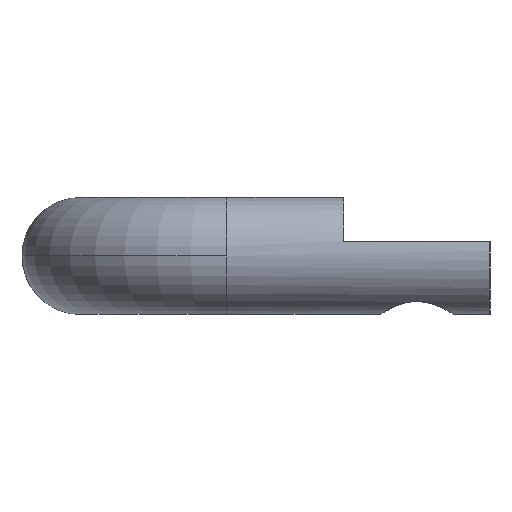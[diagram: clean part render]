
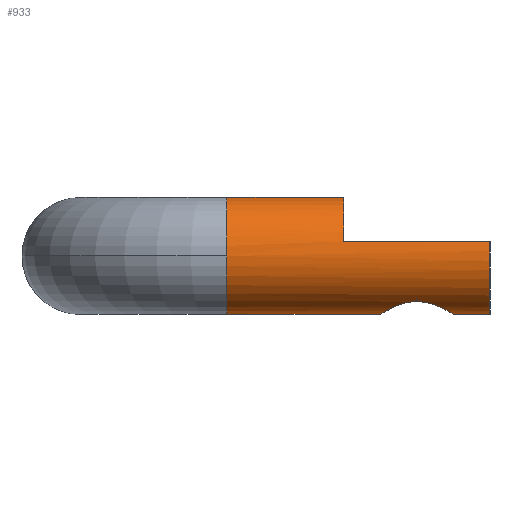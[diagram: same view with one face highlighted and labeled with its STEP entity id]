
A CAD part, left-side view. The second image highlights one B-rep face of the part: STEP entity #933.
In plain terms, the highlighted cylindrical face has radius 8 mm (diameter 16 mm), a partial arc.
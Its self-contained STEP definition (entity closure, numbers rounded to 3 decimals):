
#4 = CARTESIAN_POINT ( 'NONE',  ( -61.67, 5.034, -7.979 ) ) ;
#10 = VERTEX_POINT ( 'NONE', #63 ) ;
#19 = EDGE_CURVE ( 'NONE', #10, #777, #1061, .T. ) ;
#26 = CARTESIAN_POINT ( 'NONE',  ( -61., 20., 0. ) ) ;
#31 = VERTEX_POINT ( 'NONE', #422 ) ;
#36 = LINE ( 'NONE', #575, #736 ) ;
#37 = CIRCLE ( 'NONE', #191, 8. ) ;
#42 = CARTESIAN_POINT ( 'NONE',  ( -65.733, 11.645, -6.452 ) ) ;
#47 = VECTOR ( 'NONE', #1059, 1000. ) ;
#51 = EDGE_LOOP ( 'NONE', ( #202, #751, #477, #469, #211, #253, #648, #820, #988, #102 ) ) ;
#55 = CARTESIAN_POINT ( 'NONE',  ( -61., 20., 8. ) ) ;
#63 = CARTESIAN_POINT ( 'NONE',  ( -69., 36., 0. ) ) ;
#78 = DIRECTION ( 'NONE',  ( 0., 0., -1. ) ) ;
#81 = DIRECTION ( 'NONE',  ( 0., 0., 1. ) ) ;
#83 = CARTESIAN_POINT ( 'NONE',  ( -63.25, 14.477, -7.683 ) ) ;
#93 = CARTESIAN_POINT ( 'NONE',  ( -64.97, 6.945, -6.948 ) ) ;
#102 = ORIENTED_EDGE ( 'NONE', *, *, #990, .F. ) ;
#107 = B_SPLINE_CURVE_WITH_KNOTS ( 'NONE', 3,
 ( #1144, #358, #4, #621, #708, #364, #712, #259, #1064, #973, #183, #535, #93, #515, #600, #434, #368, #1068, #283, #623 ),
 .UNSPECIFIED., .F., .F.,
 ( 4, 2, 2, 2, 2, 2, 2, 2, 2, 4 ),
 ( 0.024, 0.025, 0.026, 0.026, 0.027, 0.028, 0.029, 0.03, 0.031, 0.032 ),
 .UNSPECIFIED. ) ;
#109 = EDGE_CURVE ( 'NONE', #1022, #777, #663, .T. ) ;
#149 = AXIS2_PLACEMENT_3D ( 'NONE', #263, #604, #81 ) ;
#161 = CARTESIAN_POINT ( 'NONE',  ( -64.316, 13.756, -7.285 ) ) ;
#178 = VECTOR ( 'NONE', #815, 1000. ) ;
#183 = CARTESIAN_POINT ( 'NONE',  ( -64.317, 6.245, -7.284 ) ) ;
#186 = VERTEX_POINT ( 'NONE', #787 ) ;
#187 = DIRECTION ( 'NONE',  ( 0., 0., 1. ) ) ;
#191 = AXIS2_PLACEMENT_3D ( 'NONE', #26, #345, #78 ) ;
#202 = ORIENTED_EDGE ( 'NONE', *, *, #457, .F. ) ;
#211 = ORIENTED_EDGE ( 'NONE', *, *, #525, .T. ) ;
#221 = CARTESIAN_POINT ( 'NONE',  ( -61., 0., 0. ) ) ;
#228 = CARTESIAN_POINT ( 'NONE',  ( -66., 10., -6.245 ) ) ;
#229 = EDGE_CURVE ( 'NONE', #727, #10, #747, .T. ) ;
#248 = CARTESIAN_POINT ( 'NONE',  ( -68.746, 20., 2. ) ) ;
#253 = ORIENTED_EDGE ( 'NONE', *, *, #229, .T. ) ;
#255 = EDGE_CURVE ( 'NONE', #603, #1130, #37, .T. ) ;
#259 = CARTESIAN_POINT ( 'NONE',  ( -63.25, 5.523, -7.683 ) ) ;
#263 = CARTESIAN_POINT ( 'NONE',  ( -61., 36., 0. ) ) ;
#267 = CARTESIAN_POINT ( 'NONE',  ( -64.066, 13.963, -7.395 ) ) ;
#277 = CARTESIAN_POINT ( 'NONE',  ( -65.326, 12.527, -6.733 ) ) ;
#283 = CARTESIAN_POINT ( 'NONE',  ( -66., 9.66, -6.245 ) ) ;
#285 = VERTEX_POINT ( 'NONE', #882 ) ;
#289 = CARTESIAN_POINT ( 'NONE',  ( -61., 0., -8. ) ) ;
#313 = CARTESIAN_POINT ( 'NONE',  ( -65.48, 12.244, -6.63 ) ) ;
#314 = DIRECTION ( 'NONE',  ( 0., 1., 0. ) ) ;
#344 = DIRECTION ( 'NONE',  ( 0., -1., 0. ) ) ;
#345 = DIRECTION ( 'NONE',  ( 0., -1., 0. ) ) ;
#351 = CARTESIAN_POINT ( 'NONE',  ( -64.967, 13.061, -6.95 ) ) ;
#358 = CARTESIAN_POINT ( 'NONE',  ( -61.338, 5., -8. ) ) ;
#364 = CARTESIAN_POINT ( 'NONE',  ( -62.643, 5.275, -7.831 ) ) ;
#368 = CARTESIAN_POINT ( 'NONE',  ( -65.831, 8.669, -6.377 ) ) ;
#376 = EDGE_CURVE ( 'NONE', #1130, #186, #511, .T. ) ;
#418 = DIRECTION ( 'NONE',  ( 0., 0., 1. ) ) ;
#422 = CARTESIAN_POINT ( 'NONE',  ( -61., 5., -8. ) ) ;
#434 = CARTESIAN_POINT ( 'NONE',  ( -65.732, 8.354, -6.452 ) ) ;
#447 = CARTESIAN_POINT ( 'NONE',  ( -61., 0., 0. ) ) ;
#457 = EDGE_CURVE ( 'NONE', #482, #31, #624, .T. ) ;
#469 = ORIENTED_EDGE ( 'NONE', *, *, #255, .F. ) ;
#477 = ORIENTED_EDGE ( 'NONE', *, *, #376, .F. ) ;
#482 = VERTEX_POINT ( 'NONE', #289 ) ;
#488 = CARTESIAN_POINT ( 'NONE',  ( -61., 0., -8. ) ) ;
#511 = LINE ( 'NONE', #873, #178 ) ;
#515 = CARTESIAN_POINT ( 'NONE',  ( -65.325, 7.471, -6.733 ) ) ;
#525 = EDGE_CURVE ( 'NONE', #603, #727, #36, .T. ) ;
#529 = CARTESIAN_POINT ( 'NONE',  ( -63.533, 14.323, -7.594 ) ) ;
#535 = CARTESIAN_POINT ( 'NONE',  ( -64.767, 6.697, -7.062 ) ) ;
#543 = AXIS2_PLACEMENT_3D ( 'NONE', #447, #967, #187 ) ;
#552 = CARTESIAN_POINT ( 'NONE',  ( -61., 15., -8. ) ) ;
#575 = CARTESIAN_POINT ( 'NONE',  ( -61., 0., 8. ) ) ;
#599 = CARTESIAN_POINT ( 'NONE',  ( -66., 10.341, -6.245 ) ) ;
#600 = CARTESIAN_POINT ( 'NONE',  ( -65.478, 7.751, -6.631 ) ) ;
#603 = VERTEX_POINT ( 'NONE', #55 ) ;
#604 = DIRECTION ( 'NONE',  ( 0., -1., 0. ) ) ;
#605 = CARTESIAN_POINT ( 'NONE',  ( -61., 36., 8. ) ) ;
#616 = CARTESIAN_POINT ( 'NONE',  ( -62.324, 14.833, -7.896 ) ) ;
#621 = CARTESIAN_POINT ( 'NONE',  ( -62.162, 5.134, -7.917 ) ) ;
#623 = CARTESIAN_POINT ( 'NONE',  ( -66., 10., -6.245 ) ) ;
#624 = LINE ( 'NONE', #810, #47 ) ;
#634 = B_SPLINE_CURVE_WITH_KNOTS ( 'NONE', 3,
 ( #228, #599, #954, #839, #42, #313, #277, #351, #701, #161, #267, #529, #83, #692, #616, #1050, #809, #717 ),
 .UNSPECIFIED., .F., .F.,
 ( 4, 2, 2, 2, 2, 2, 2, 2, 4 ),
 ( 0., 0.001, 0.002, 0.003, 0.004, 0.005, 0.006, 0.007, 0.008 ),
 .UNSPECIFIED. ) ;
#648 = ORIENTED_EDGE ( 'NONE', *, *, #19, .T. ) ;
#663 = LINE ( 'NONE', #488, #965 ) ;
#692 = CARTESIAN_POINT ( 'NONE',  ( -62.648, 14.732, -7.835 ) ) ;
#701 = CARTESIAN_POINT ( 'NONE',  ( -64.765, 13.306, -7.063 ) ) ;
#708 = CARTESIAN_POINT ( 'NONE',  ( -62.326, 5.176, -7.891 ) ) ;
#712 = CARTESIAN_POINT ( 'NONE',  ( -62.798, 5.331, -7.797 ) ) ;
#717 = CARTESIAN_POINT ( 'NONE',  ( -61., 15., -8. ) ) ;
#727 = VERTEX_POINT ( 'NONE', #605 ) ;
#735 = CIRCLE ( 'NONE', #1023, 8. ) ;
#736 = VECTOR ( 'NONE', #314, 1000. ) ;
#747 = CIRCLE ( 'NONE', #149, 8. ) ;
#751 = ORIENTED_EDGE ( 'NONE', *, *, #857, .F. ) ;
#756 = DIRECTION ( 'NONE',  ( 0., 1., 0. ) ) ;
#777 = VERTEX_POINT ( 'NONE', #889 ) ;
#787 = CARTESIAN_POINT ( 'NONE',  ( -68.746, 0., 2. ) ) ;
#809 = CARTESIAN_POINT ( 'NONE',  ( -61.339, 15., -8. ) ) ;
#810 = CARTESIAN_POINT ( 'NONE',  ( -61., 0., -8. ) ) ;
#812 = FACE_OUTER_BOUND ( 'NONE', #51, .T. ) ;
#815 = DIRECTION ( 'NONE',  ( 0., -1., 0. ) ) ;
#820 = ORIENTED_EDGE ( 'NONE', *, *, #109, .F. ) ;
#839 = CARTESIAN_POINT ( 'NONE',  ( -65.833, 11.325, -6.376 ) ) ;
#843 = DIRECTION ( 'NONE',  ( 0., -1., 0. ) ) ;
#857 = EDGE_CURVE ( 'NONE', #186, #482, #735, .T. ) ;
#873 = CARTESIAN_POINT ( 'NONE',  ( -68.746, 0., 2. ) ) ;
#882 = CARTESIAN_POINT ( 'NONE',  ( -66., 10., -6.245 ) ) ;
#889 = CARTESIAN_POINT ( 'NONE',  ( -61., 36., -8. ) ) ;
#903 = EDGE_CURVE ( 'NONE', #285, #1022, #634, .T. ) ;
#933 = ADVANCED_FACE ( 'NONE', ( #812 ), #976, .T. ) ;
#934 = CARTESIAN_POINT ( 'NONE',  ( -61., 36., 0. ) ) ;
#954 = CARTESIAN_POINT ( 'NONE',  ( -65.965, 10.674, -6.273 ) ) ;
#965 = VECTOR ( 'NONE', #756, 1000. ) ;
#967 = DIRECTION ( 'NONE',  ( 0., 1., 0. ) ) ;
#973 = CARTESIAN_POINT ( 'NONE',  ( -64.072, 6.042, -7.392 ) ) ;
#976 = CYLINDRICAL_SURFACE ( 'NONE', #543, 8. ) ;
#988 = ORIENTED_EDGE ( 'NONE', *, *, #903, .F. ) ;
#990 = EDGE_CURVE ( 'NONE', #31, #285, #107, .T. ) ;
#1022 = VERTEX_POINT ( 'NONE', #552 ) ;
#1023 = AXIS2_PLACEMENT_3D ( 'NONE', #221, #843, #1115 ) ;
#1050 = CARTESIAN_POINT ( 'NONE',  ( -61.672, 14.966, -7.979 ) ) ;
#1059 = DIRECTION ( 'NONE',  ( 0., 1., 0. ) ) ;
#1061 = CIRCLE ( 'NONE', #1110, 8. ) ;
#1064 = CARTESIAN_POINT ( 'NONE',  ( -63.539, 5.68, -7.592 ) ) ;
#1068 = CARTESIAN_POINT ( 'NONE',  ( -65.965, 9.319, -6.274 ) ) ;
#1110 = AXIS2_PLACEMENT_3D ( 'NONE', #934, #344, #418 ) ;
#1115 = DIRECTION ( 'NONE',  ( 0., 0., 1. ) ) ;
#1130 = VERTEX_POINT ( 'NONE', #248 ) ;
#1144 = CARTESIAN_POINT ( 'NONE',  ( -61., 5., -8. ) ) ;
